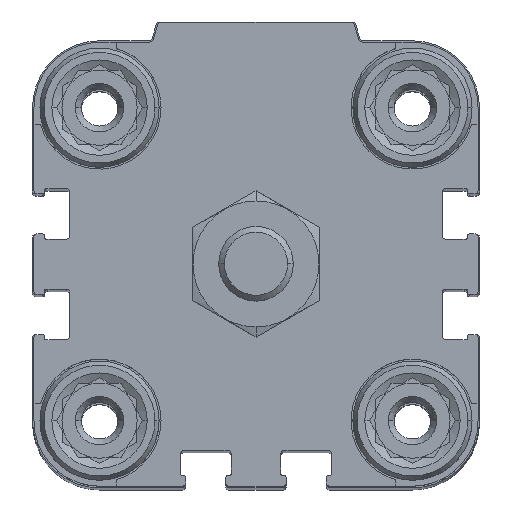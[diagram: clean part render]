
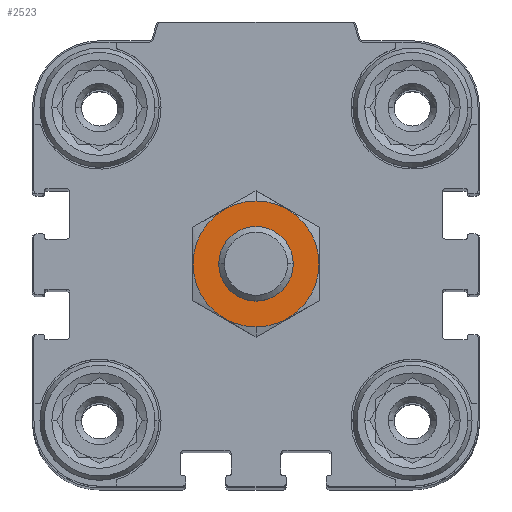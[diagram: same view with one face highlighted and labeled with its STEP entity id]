
A CAD part, top view. The second image highlights one B-rep face of the part: STEP entity #2523.
In plain terms, the highlighted planar face has unit normal (0, 0, 1).
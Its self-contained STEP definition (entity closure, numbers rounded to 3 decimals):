
#829 = AXIS2_PLACEMENT_3D ( 'NONE', #874, #8297, #19617 ) ;
#874 = CARTESIAN_POINT ( 'NONE',  ( 0., 0., 15.5 ) ) ;
#2025 = CARTESIAN_POINT ( 'NONE',  ( 0., 0., 15.5 ) ) ;
#2523 = ADVANCED_FACE ( 'NONE', ( #3463, #20268 ), #3578, .F. ) ;
#2593 = CARTESIAN_POINT ( 'NONE',  ( 0., 0., 15.5 ) ) ;
#3355 = CIRCLE ( 'NONE', #18497, 5. ) ;
#3463 = FACE_OUTER_BOUND ( 'NONE', #7076, .T. ) ;
#3578 = PLANE ( 'NONE',  #9143 ) ;
#3836 = ORIENTED_EDGE ( 'NONE', *, *, #22050, .F. ) ;
#4866 = ORIENTED_EDGE ( 'NONE', *, *, #17102, .F. ) ;
#6567 = CARTESIAN_POINT ( 'NONE',  ( 0., 5., 15.5 ) ) ;
#7076 = EDGE_LOOP ( 'NONE', ( #3836, #4866 ) ) ;
#7458 = VERTEX_POINT ( 'NONE', #17622 ) ;
#7861 = DIRECTION ( 'NONE',  ( 0., -1., 0. ) ) ;
#8297 = DIRECTION ( 'NONE',  ( 0., 0., -1. ) ) ;
#8378 = AXIS2_PLACEMENT_3D ( 'NONE', #10581, #19597, #19469 ) ;
#9143 = AXIS2_PLACEMENT_3D ( 'NONE', #10767, #16130, #16489 ) ;
#10014 = DIRECTION ( 'NONE',  ( 0., 0., -1. ) ) ;
#10581 = CARTESIAN_POINT ( 'NONE',  ( 0., 0., 15.5 ) ) ;
#10767 = CARTESIAN_POINT ( 'NONE',  ( 0., 0., 15.5 ) ) ;
#12592 = CARTESIAN_POINT ( 'NONE',  ( 0., -8.45, 15.5 ) ) ;
#12693 = CIRCLE ( 'NONE', #22038, 8.45 ) ;
#13060 = CIRCLE ( 'NONE', #8378, 5. ) ;
#13480 = EDGE_CURVE ( 'NONE', #22327, #19895, #13060, .T. ) ;
#13732 = CARTESIAN_POINT ( 'NONE',  ( 0., -5., 15.5 ) ) ;
#15784 = ORIENTED_EDGE ( 'NONE', *, *, #13480, .T. ) ;
#16130 = DIRECTION ( 'NONE',  ( 0., 0., -1. ) ) ;
#16489 = DIRECTION ( 'NONE',  ( 0., -1., 0. ) ) ;
#16818 = ORIENTED_EDGE ( 'NONE', *, *, #21417, .T. ) ;
#17102 = EDGE_CURVE ( 'NONE', #7458, #21728, #23394, .T. ) ;
#17223 = EDGE_LOOP ( 'NONE', ( #16818, #15784 ) ) ;
#17622 = CARTESIAN_POINT ( 'NONE',  ( 0., 8.45, 15.5 ) ) ;
#18497 = AXIS2_PLACEMENT_3D ( 'NONE', #2025, #20905, #7861 ) ;
#19148 = DIRECTION ( 'NONE',  ( 0., -1., 0. ) ) ;
#19469 = DIRECTION ( 'NONE',  ( 0., -1., 0. ) ) ;
#19597 = DIRECTION ( 'NONE',  ( 0., 0., -1. ) ) ;
#19617 = DIRECTION ( 'NONE',  ( 0., -1., 0. ) ) ;
#19895 = VERTEX_POINT ( 'NONE', #6567 ) ;
#20268 = FACE_BOUND ( 'NONE', #17223, .T. ) ;
#20905 = DIRECTION ( 'NONE',  ( 0., 0., -1. ) ) ;
#21417 = EDGE_CURVE ( 'NONE', #19895, #22327, #3355, .T. ) ;
#21728 = VERTEX_POINT ( 'NONE', #12592 ) ;
#22038 = AXIS2_PLACEMENT_3D ( 'NONE', #2593, #10014, #19148 ) ;
#22050 = EDGE_CURVE ( 'NONE', #21728, #7458, #12693, .T. ) ;
#22327 = VERTEX_POINT ( 'NONE', #13732 ) ;
#23394 = CIRCLE ( 'NONE', #829, 8.45 ) ;
